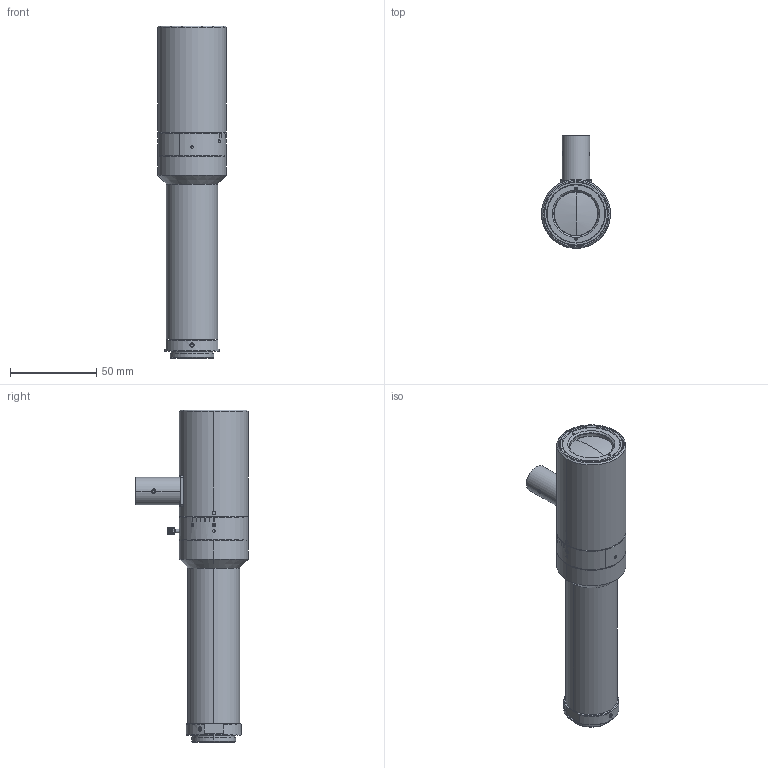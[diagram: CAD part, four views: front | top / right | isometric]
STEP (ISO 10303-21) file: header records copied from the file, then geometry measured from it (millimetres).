
FILE_DESCRIPTION (( 'STEP AP203' ), '1' );
FILE_NAME ('3d_MML4-SR65DVI-18C_a001.STEP', '2023-10-20T08:16:13', ( '' ), ( '' ), 'SwSTEP 2.0', 'SolidWorks 2020', '' );
FILE_SCHEMA (( 'CONFIG_CONTROL_DESIGN' ));
Length unit declared in the file: millimetre
Products named in the file (1): 3d_MML4-SR65DVI-18C_a001
Bounding box: 40 x 65.35 x 192.59 mm (x, y, z)
Volume: 174812.4 mm3; surface area: 29600.9 mm2
Topology: 1 solids, 3 shells, 612 faces, 1581 edges, 1015 vertices
Faces by surface type: plane 217, cylinder 202, cone 109, bspline 68, torus 10, sphere 6
Entity records: 28443 total; most frequent: CARTESIAN_POINT 14371, ORIENTED_EDGE 3150, DIRECTION 2562, EDGE_CURVE 1575, VERTEX_POINT 1015, AXIS2_PLACEMENT_3D 1010, EDGE_LOOP 672, FACE_OUTER_BOUND 612
